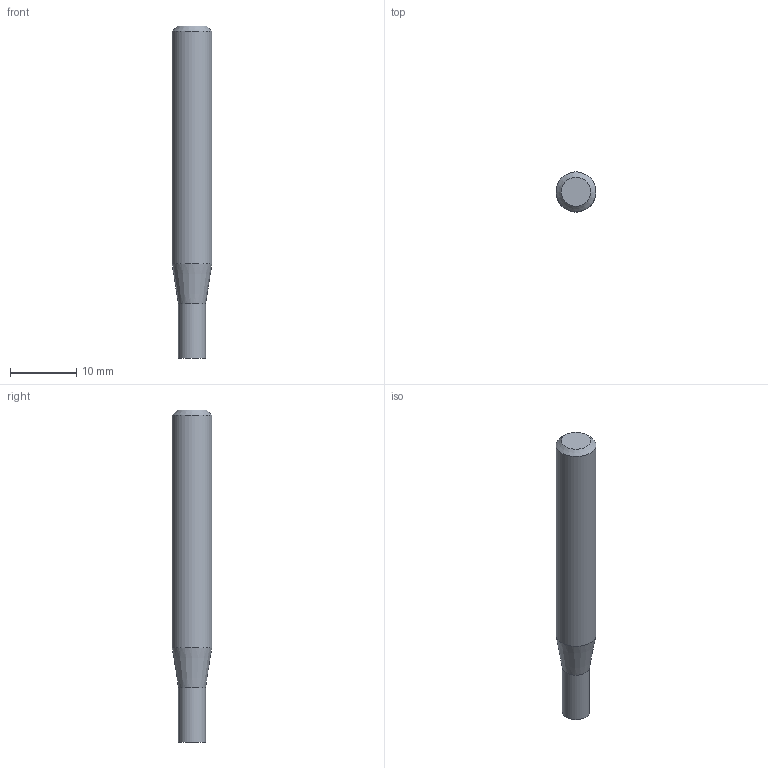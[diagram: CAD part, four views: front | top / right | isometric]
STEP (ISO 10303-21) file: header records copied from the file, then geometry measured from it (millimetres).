
FILE_DESCRIPTION((''),'2;1');
FILE_NAME('C:\Users\nsx150\AppData\Local\Temp\Mastercam 2021\98T1Q6BTT1\TEMP.step','2021-10-21T14:48:32',(''),(''),'STEP Write','Mastercam 2021 ... CNC Software, Inc.','');
FILE_SCHEMA(('AUTOMOTIVE_DESIGN'));
Length unit declared in the file: millimetre
Products named in the file (1): None
Bounding box: 6 x 6 x 50 mm (x, y, z)
Volume: 1236.6 mm3; surface area: 935 mm2
Topology: 2 solids, 2 shells, 8 faces, 10 edges, 6 vertices
Faces by surface type: plane 4, cylinder 2, cone 2
Full cylindrical faces by diameter (mm): 4.1 x1, 6 x1
Entity records: 190 total; most frequent: DIRECTION 32, CARTESIAN_POINT 22, AXIS2_PLACEMENT_3D 16, ORIENTED_EDGE 12, EDGE_LOOP 12, STYLED_ITEM 11, ADVANCED_FACE 8, VERTEX_POINT 6
